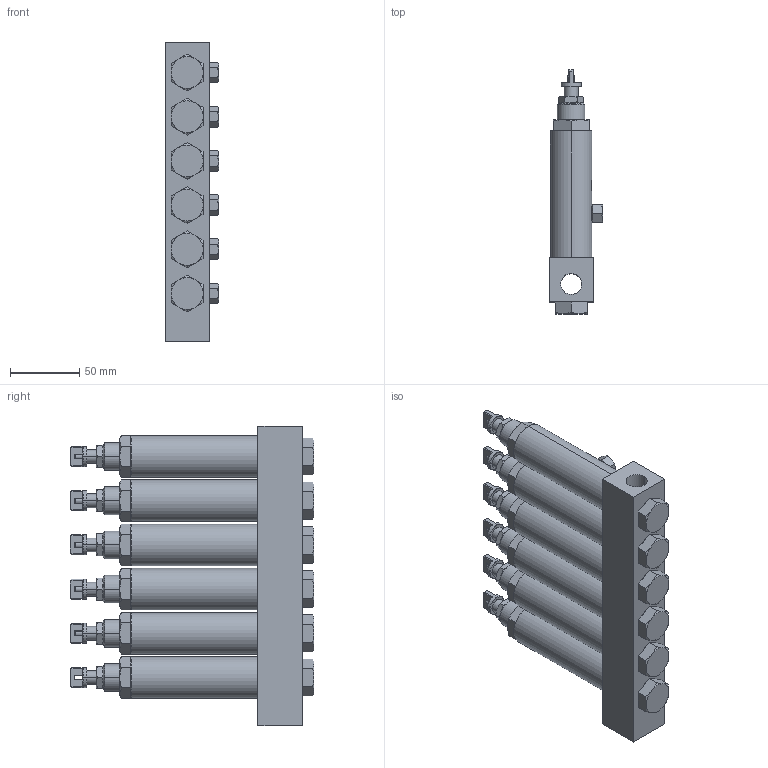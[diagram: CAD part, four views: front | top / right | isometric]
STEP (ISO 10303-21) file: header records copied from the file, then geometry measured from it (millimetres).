
FILE_DESCRIPTION (( 'STEP AP203' ), '1' );
FILE_NAME ('ASL-06.STEP', '2020-04-18T03:38:11', ( '个人用户' ), ( '微软中国' ), 'SwSTEP 2.0', 'SolidWorks 2018', '' );
FILE_SCHEMA (( 'CONFIG_CONTROL_DESIGN' ));
Length unit declared in the file: millimetre
Products named in the file (1): ASL-06
Bounding box: 39 x 176.5 x 217 mm (x, y, z)
Surface area: 121098.4 mm2 (no closed solid volume)
Topology: 0 solids, 62 shells, 654 faces, 1803 edges, 1199 vertices
Faces by surface type: plane 342, cone 188, cylinder 102, torus 12, sphere 10
Entity records: 23882 total; most frequent: CARTESIAN_POINT 7799, DIRECTION 3228, ORIENTED_EDGE 3172, EDGE_CURVE 1778, AXIS2_PLACEMENT_3D 1205, VERTEX_POINT 1184, VECTOR 818, LINE 818
